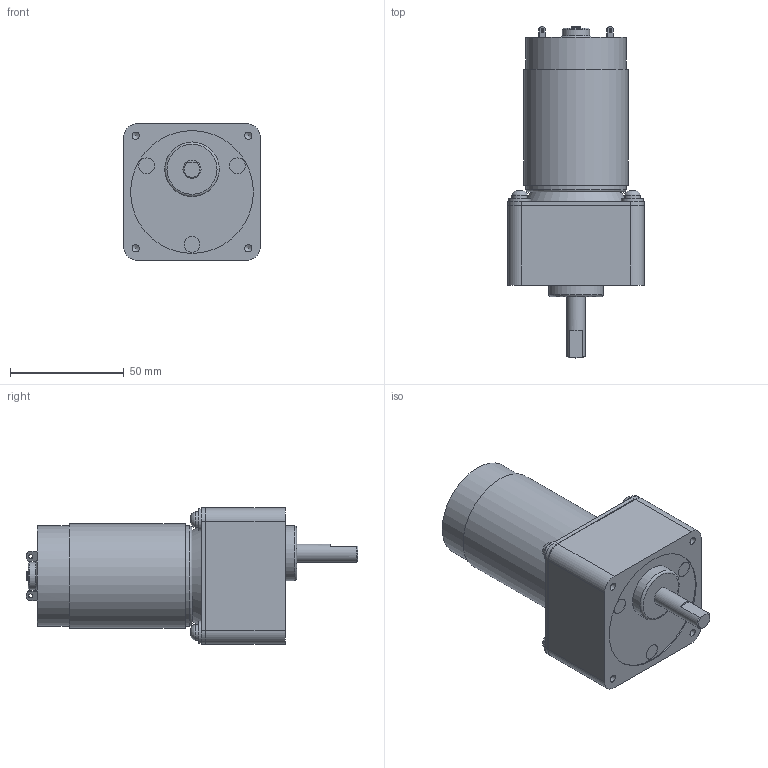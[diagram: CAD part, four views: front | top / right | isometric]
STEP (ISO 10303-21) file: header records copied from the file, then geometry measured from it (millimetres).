
FILE_DESCRIPTION(/* description */ (''),/* implementation_level */ '2;1');
FILE_NAME(/* name */ 'TP-4668-CM-3.stp',/* time_stamp */ '2024-05-31T17:16:53+09:00',/* author */ ('user'),/* organization */ (''),/* preprocessor_version */ 'ST-DEVELOPER v20',/* originating_system */ 'Autodesk Inventor 2024',/* authorisation */ '');
FILE_SCHEMA (('AUTOMOTIVE_DESIGN { 1 0 10303 214 3 1 1 }'));
Length unit declared in the file: millimetre
Products named in the file (3): TP-4668-CM-15~36; cm_3; tp_4668
Assembly tree (2 placements, depth 2):
  TP-4668-CM-15~36
    cm_3
    tp_4668
Bounding box: 60 x 146 x 60 mm (x, y, z)
Volume: 250158.6 mm3; surface area: 31806.2 mm2
Topology: 2 solids, 2 shells, 137 faces, 306 edges, 201 vertices
Faces by surface type: plane 61, cylinder 56, cone 12, bspline 4, torus 4
Full cylindrical faces by diameter (mm): 2 x2, 2.459 x3, 3.242 x4, 4 x2, 6.8 x4, 7 x3, 8 x1, 9.8 x4, 12 x2, 24 x1, 42 x1, 44 x1, 54 x1
Entity records: 4035 total; most frequent: CARTESIAN_POINT 750, DIRECTION 720, ORIENTED_EDGE 598, EDGE_CURVE 299, AXIS2_PLACEMENT_3D 285, VERTEX_POINT 201, EDGE_LOOP 176, LINE 150
